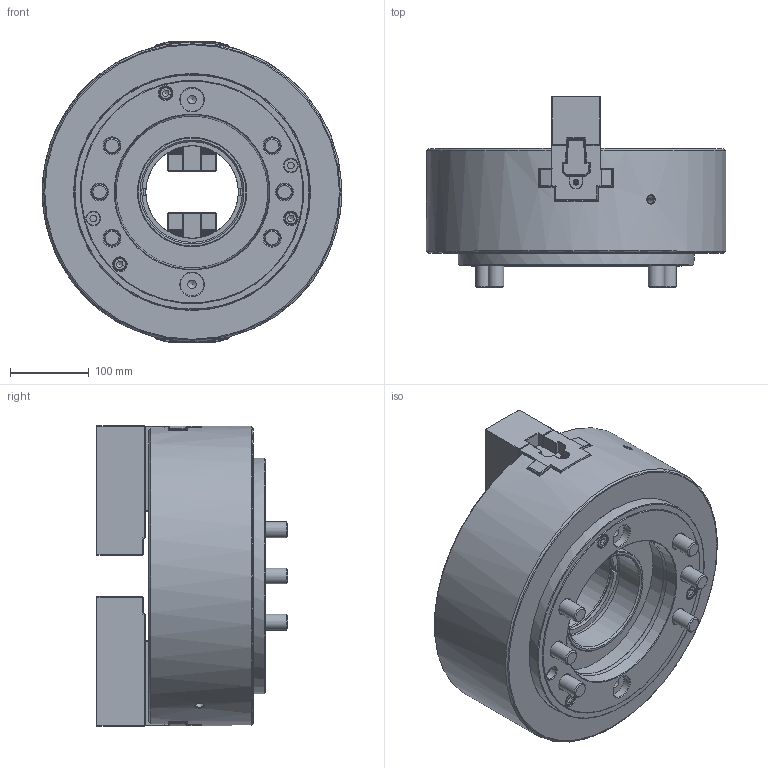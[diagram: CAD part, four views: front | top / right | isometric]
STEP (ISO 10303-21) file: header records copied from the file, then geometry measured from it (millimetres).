
FILE_DESCRIPTION(/* description */ (''),/* implementation_level */ '2;1');
FILE_NAME(/* name */ 'C:\Users\034\Desktop\需重新取代\OPT-215-A11.stp',/* time_stamp */ '2024-09-04T16:28:35+08:00',/* author */ ('034'),/* organization */ (''),/* preprocessor_version */ 'ST-DEVELOPER v16.13',/* originating_system */ 'Autodesk Inventor 2018',/* authorisation */ '');
FILE_SCHEMA (('AUTOMOTIVE_DESIGN { 1 0 10303 214 3 1 1 }'));
Products named in the file (1): OPT-215-A11
Bounding box: 380.82 x 243.29 x 382.33 mm (x, y, z)
Volume: 14585850.2 mm3; surface area: 870443.4 mm2
Topology: 1 solids, 37 shells, 5810 faces, 18744 edges, 11977 vertices
Faces by surface type: plane 3473, cylinder 1549, bspline 366, cone 321, torus 83, sphere 18
Full cylindrical faces by diameter (mm): 3 x16, 3.4 x6, 4 x14, 4.5 x6, 4.8 x4, 5.1 x4, 5.2 x2, 6 x6, 7 x4, 7.53 x6, 8.6 x2, 10 x7, 10.3 x8, 11 x7, 16 x3, 17 x5, 17.6 x4, 20 x16, 21 x22, 29.4 x2, 30 x12, 32 x10, 60 x2, 117.5 x1, 121 x1, 123.4 x1, 123.6 x1, 123.762 x2, 128 x1, 131 x1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
Entity records: 206806 total; most frequent: CARTESIAN_POINT 44483, ORIENTED_EDGE 36150, DIRECTION 31485, EDGE_CURVE 18075, LINE 13281, VECTOR 13281, VERTEX_POINT 11736, AXIS2_PLACEMENT_3D 9102
